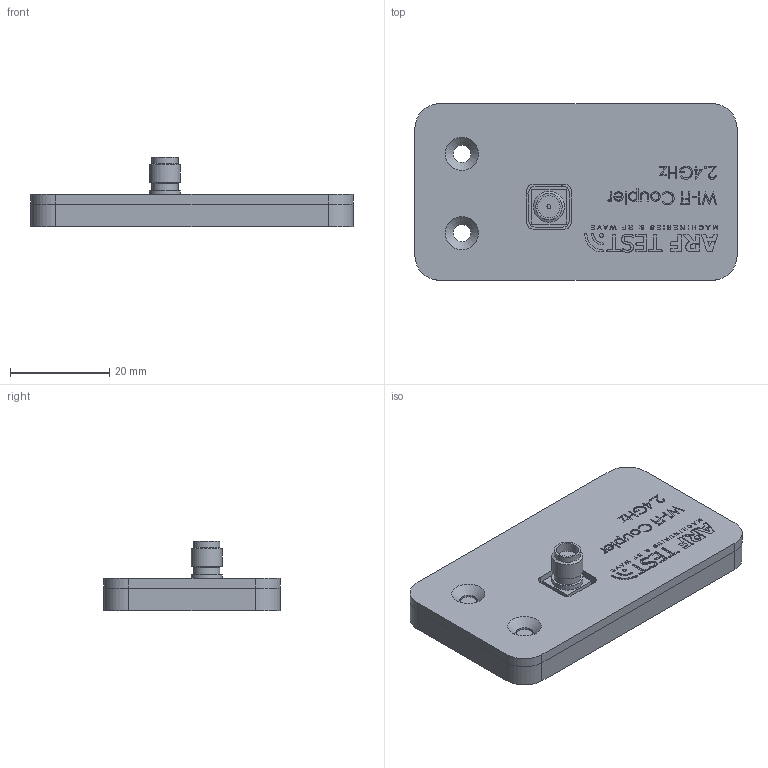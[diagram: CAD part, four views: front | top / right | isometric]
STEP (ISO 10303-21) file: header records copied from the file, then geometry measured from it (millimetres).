
FILE_DESCRIPTION (( 'STEP AP214' ), '1' );
FILE_NAME ('8118_014 (8118_074 - 2.4Ghz).STEP', '2024-04-17T16:51:24', ( '' ), ( '' ), 'SwSTEP 2.0', 'SolidWorks 2015', '' );
FILE_SCHEMA (( 'AUTOMOTIVE_DESIGN' ));
Length unit declared in the file: millimetre
Products named in the file (11): 8118_110; 8118_014 (8118_074 - 2.4Ghz); j01151a0701; 8118_074; 8118_108
Assembly tree (7 placements, depth 3):
  8118_014 (8118_074 - 2.4Ghz)
    8118_074
      j01151a0701
  8118_110
  8118_014 (8118_074 - 2.4Ghz)
    8118_074
      j01151a0701
    8118_108
    8118_110
      8118_110
  8118_108
Bounding box: 65 x 35.6 x 13.95 mm (x, y, z)
Volume: 11958.5 mm3; surface area: 12045.3 mm2
Topology: 3 solids, 3 shells, 1282 faces, 3601 edges, 2405 vertices
Faces by surface type: plane 675, cylinder 521, bspline 76, cone 10
Full cylindrical faces by diameter (mm): 0.744 x1, 0.8 x1, 1.3 x1, 3.05 x2, 3.5 x4, 4.5 x1, 5.3 x1, 5.34 x1, 6.25 x2
Entity records: 55987 total; most frequent: CARTESIAN_POINT 11662, ORIENTED_EDGE 7148, DIRECTION 6923, EDGE_CURVE 3574, VERTEX_POINT 2392, LINE 2377, VECTOR 2377, AXIS2_PLACEMENT_3D 2273
